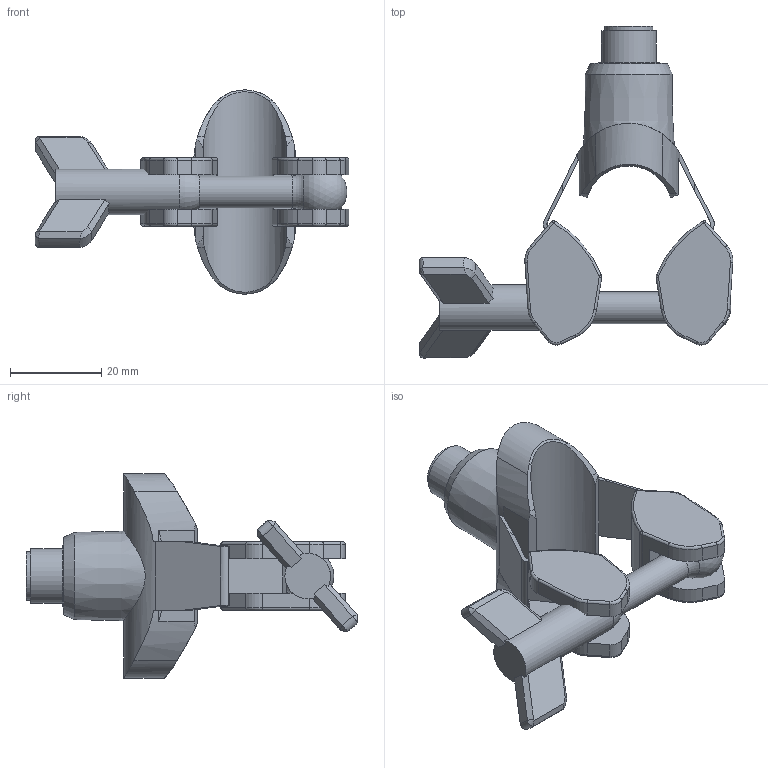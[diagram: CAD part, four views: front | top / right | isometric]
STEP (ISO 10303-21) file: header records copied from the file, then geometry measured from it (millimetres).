
FILE_DESCRIPTION(/* description */ ('STEP AP203'),/* implementation_level */ '2;1');
FILE_NAME(/* name */ 'TSM301',/* time_stamp */ '2024-07-01T11:13:16+02:00',/* author */ ('License CC BY-ND 4.0'),/* organization */ ('CADENAS'),/* preprocessor_version */ 'ST-DEVELOPER v19.3',/* originating_system */ 'PARTsolutions',/* authorisation */ ' ');
FILE_SCHEMA (('CONFIG_CONTROL_DESIGN'));
Length unit declared in the file: millimetre
Products named in the file (3): TSM301; P_MZ_Z_1933_P1; P_MZ_Z_1933_P2
Assembly tree (2 placements, depth 2):
  TSM301
    P_MZ_Z_1933_P1
    P_MZ_Z_1933_P2
Bounding box: 68.81 x 72.84 x 44.81 mm (x, y, z)
Volume: 24577 mm3; surface area: 11951.6 mm2
Topology: 2 solids, 2 shells, 193 faces, 499 edges, 312 vertices
Faces by surface type: plane 79, cylinder 70, torus 31, cone 12, sphere 1
Full cylindrical faces by diameter (mm): 7 x1, 8.4 x1, 10 x1, 10.6 x1, 12 x1
Entity records: 6997 total; most frequent: CARTESIAN_POINT 1115, DIRECTION 1058, ORIENTED_EDGE 964, EDGE_CURVE 482, AXIS2_PLACEMENT_3D 409, VERTEX_POINT 307, LINE 240, VECTOR 240
